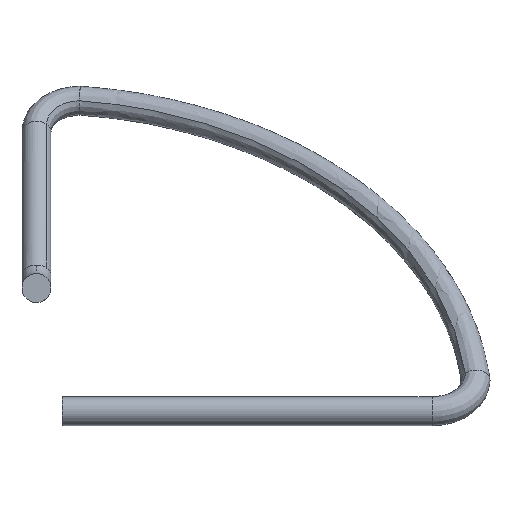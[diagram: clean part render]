
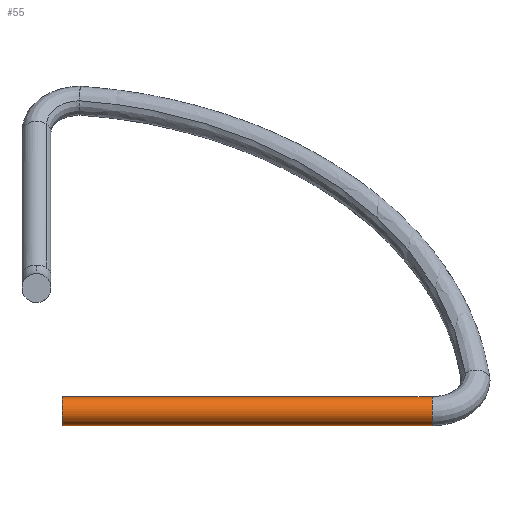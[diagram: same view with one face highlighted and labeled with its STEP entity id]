
A CAD part, front view. The second image highlights one B-rep face of the part: STEP entity #55.
In plain terms, the highlighted cylindrical face has radius 1 mm (diameter 2 mm), a partial arc.
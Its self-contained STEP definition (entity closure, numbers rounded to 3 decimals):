
#55=ADVANCED_FACE('',(#77),#78,.T.);
#77=FACE_OUTER_BOUND('',#1266,.T.);
#78=CYLINDRICAL_SURFACE('',#1267,1.0);
#1266=EDGE_LOOP('',(#2472,#2473,#2474,#2475));
#1267=AXIS2_PLACEMENT_3D('',#2476,#2477,#2478);
#2472=ORIENTED_EDGE('',*,*,#2572,.F.);
#2473=ORIENTED_EDGE('',*,*,#2573,.T.);
#2474=ORIENTED_EDGE('',*,*,#2574,.F.);
#2475=ORIENTED_EDGE('',*,*,#2558,.T.);
#2476=CARTESIAN_POINT('',(1.79,0.0,-2.5));
#2477=DIRECTION('',(1.0,0.0,-0.0));
#2478=DIRECTION('',(0.0,0.0,1.0));
#2558=EDGE_CURVE('',#2593,#2599,#2601,.T.);
#2572=EDGE_CURVE('',#2626,#2599,#2627,.T.);
#2573=EDGE_CURVE('',#2626,#2628,#2629,.T.);
#2574=EDGE_CURVE('',#2593,#2628,#2630,.T.);
#2593=VERTEX_POINT('',#2655);
#2599=VERTEX_POINT('',#2719);
#2601=CIRCLE('',#2737,1.0);
#2626=VERTEX_POINT('',#2890);
#2627=LINE('',#2891,#2892);
#2628=VERTEX_POINT('',#2893);
#2629=CIRCLE('',#2894,1.0);
#2630=LINE('',#2895,#2896);
#2655=CARTESIAN_POINT('',(27.29,0.,-3.5));
#2719=CARTESIAN_POINT('',(27.29,0.0,-1.5));
#2737=AXIS2_PLACEMENT_3D('',#3010,#3011,#3012);
#2890=CARTESIAN_POINT('',(1.79,0.0,-1.5));
#2891=CARTESIAN_POINT('',(1.79,0.,-1.5));
#2892=VECTOR('',#3034,1.0);
#2893=CARTESIAN_POINT('',(1.79,0.,-3.5));
#2894=AXIS2_PLACEMENT_3D('',#3035,#3036,#3037);
#2895=CARTESIAN_POINT('',(1.79,0.,-3.5));
#2896=VECTOR('',#3038,1.0);
#3010=CARTESIAN_POINT('',(27.29,0.0,-2.5));
#3011=DIRECTION('',(-1.0,0.0,0.0));
#3012=DIRECTION('',(0.0,0.0,1.0));
#3034=DIRECTION('',(1.0,0.0,0.0));
#3035=CARTESIAN_POINT('',(1.79,0.0,-2.5));
#3036=DIRECTION('',(1.0,0.0,-0.0));
#3037=DIRECTION('',(0.0,0.0,1.0));
#3038=DIRECTION('',(-1.0,-0.0,-0.0));
